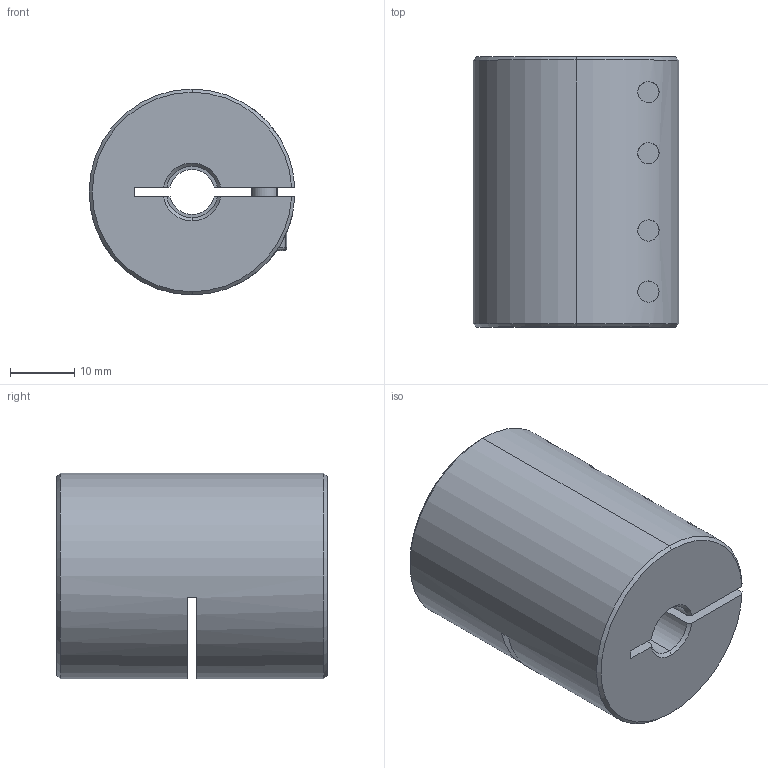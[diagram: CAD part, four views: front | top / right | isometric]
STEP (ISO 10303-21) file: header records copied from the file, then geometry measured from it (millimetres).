
FILE_DESCRIPTION (( 'STEP AP203' ), '1' );
FILE_NAME ('LL-B-D32L42-7-8.STEP', '2021-11-05T07:40:43', ( '' ), ( '' ), 'SwSTEP 2.0', 'SolidWorks 2018', '' );
FILE_SCHEMA (( 'CONFIG_CONTROL_DESIGN' ));
Length unit declared in the file: millimetre
Products named in the file (1): LL-B-D32L42-7-8
Bounding box: 31.98 x 42 x 32 mm (x, y, z)
Volume: 29388.1 mm3; surface area: 10287.6 mm2
Topology: 1 solids, 1 shells, 193 faces, 492 edges, 309 vertices
Faces by surface type: plane 88, cylinder 77, cone 20, torus 8
Entity records: 6376 total; most frequent: CARTESIAN_POINT 1559, DIRECTION 1037, ORIENTED_EDGE 968, EDGE_CURVE 484, AXIS2_PLACEMENT_3D 403, VERTEX_POINT 309, LINE 231, VECTOR 231
